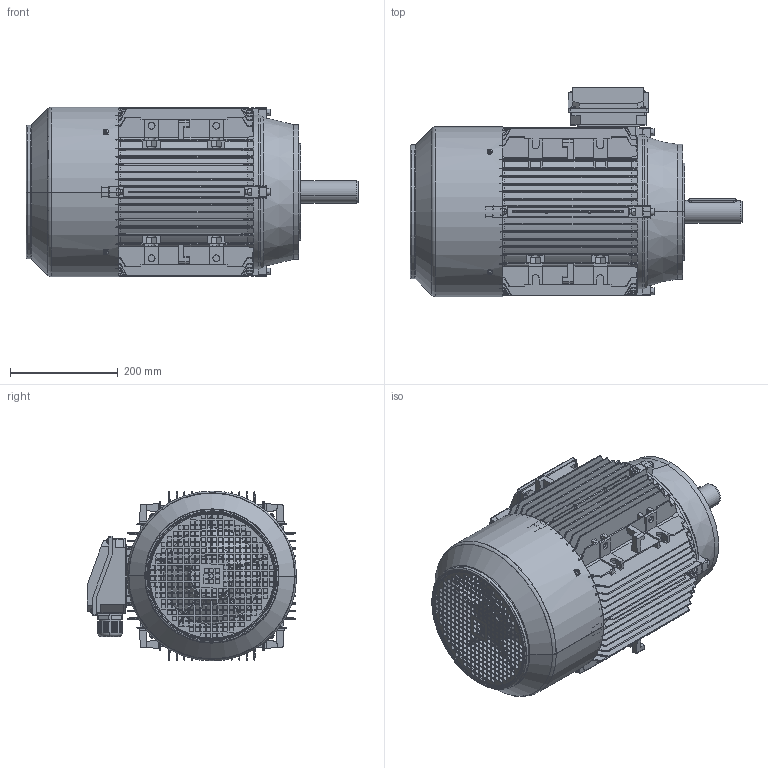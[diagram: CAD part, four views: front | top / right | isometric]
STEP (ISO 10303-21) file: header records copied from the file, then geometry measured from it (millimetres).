
FILE_DESCRIPTION (( 'STEP AP214' ), '1' );
FILE_NAME ('BMT4750.16H814.11.step', '2020-04-24T00:22:12', ( '' ), ( '' ), 'SwSTEP 2.0', 'SolidWorks 2019', '' );
FILE_SCHEMA (( 'AUTOMOTIVE_DESIGN' ));
Length unit declared in the file: millimetre
Products named in the file (1): BMT4750.16H814.11
Bounding box: 616 x 388.5 x 315 mm (x, y, z)
Volume: 5791864.2 mm3; surface area: 2569998.7 mm2
Topology: 35 solids, 35 shells, 5797 faces, 15696 edges, 9872 vertices
Faces by surface type: plane 3094, cylinder 1261, bspline 810, cone 371, torus 199, sphere 62
Entity records: 221843 total; most frequent: CARTESIAN_POINT 82708, ORIENTED_EDGE 30994, DIRECTION 25707, EDGE_CURVE 15497, VERTEX_POINT 9871, LINE 9225, VECTOR 9225, AXIS2_PLACEMENT_3D 8241
